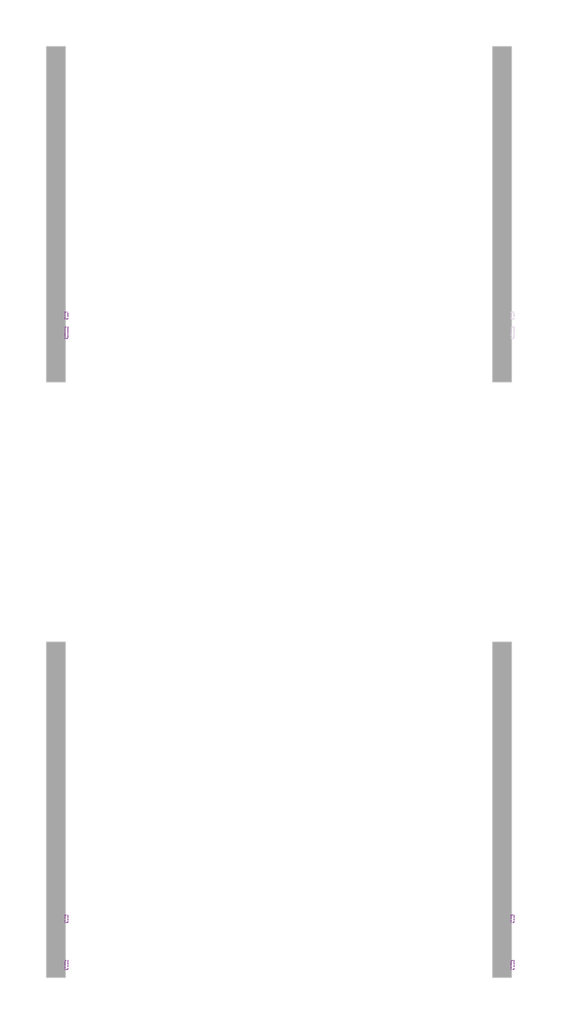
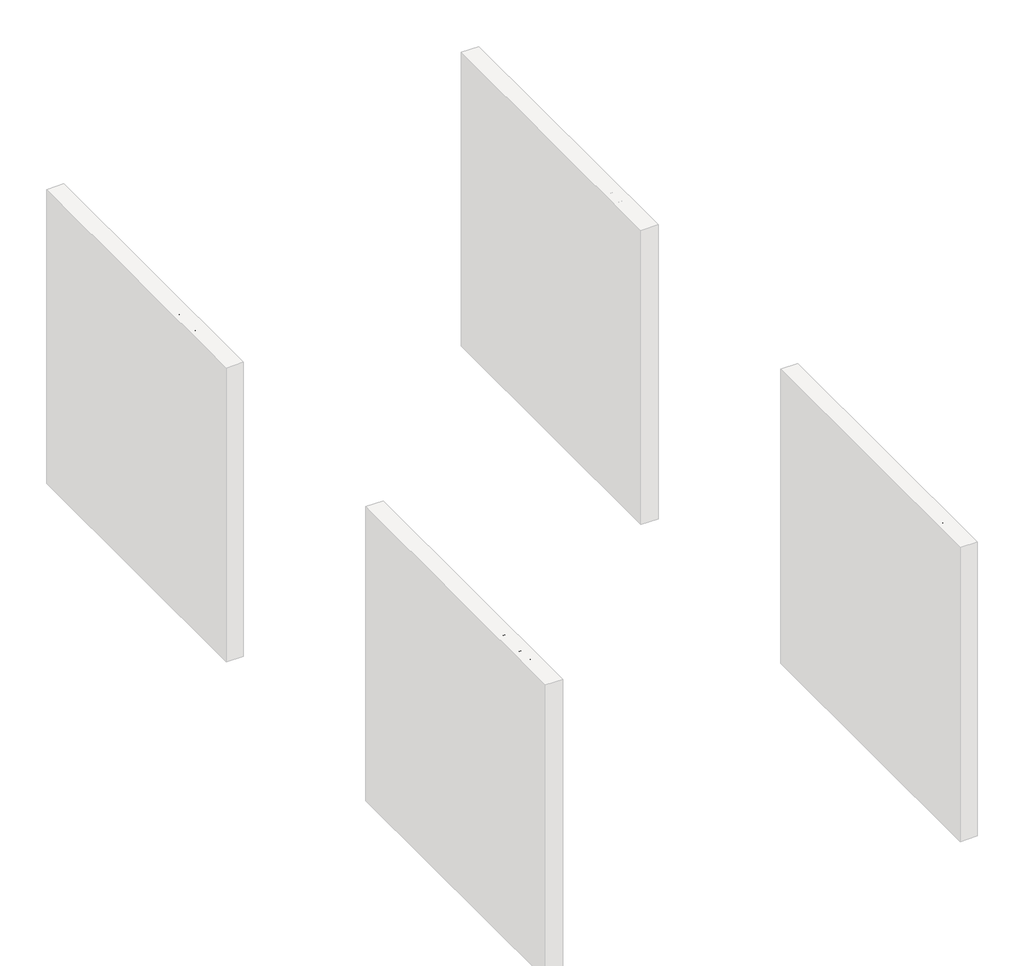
# One storey, part 6 of 9: 6 proxies.
"""IFC4 building model written with IfcOpenShell, lengths in millimetres."""

from ifc_helpers import new_model, si_unit, frame, origin, place, context, project, spatial, polyline, outline, extrude, element, save

model = new_model("IFC4")

# Units and contexts
model_context = context("Model", 3, world=origin())
ifc_project = project(units=[si_unit("LENGTHUNIT", "METRE", prefix="MILLI")], contexts=[model_context])

# Site, building, storey
site = spatial("IfcSite", under=ifc_project)
building = spatial("IfcBuilding", under=site)
storey = spatial("IfcBuildingStorey", under=building, Name="PORTOBELLO - SHOWROOM", Elevation=0.0)

# Proxies
placement = place(None, origin())
element("IfcBuildingElementProxy", 1, Name="10mm Arial", ObjectType="10mm Arial", at=placement, inside=storey, context=model_context, shape_type="SweptSolid", body=[
    extrude(outline(polyline([(3713.9937077, 2548.8308244), (3713.9937077, 2649.2871345), (3752.3270116, 2649.2871345), (3771.101256, 2646.3318158), (3782.1867668, 2637.2451306), (3786.1966806, 2624.3937862), (3782.824429, 2612.6583505), (3772.6340977, 2603.767869), (3785.0071955, 2594.3991409), (3789.3359403, 2578.7764188), (3786.3806216, 2565.2751496), (3779.0597699, 2555.6611668), (3768.1336746, 2550.5598698), (3752.032706, 2548.8308244), (3713.9937077, 2548.8308244)]), holes=[polyline([(3726.5507464, 2608.4767585), (3749.4820575, 2608.4767585), (3762.8729621, 2609.5558791), (3770.9295778, 2614.2034549), (3773.6396418, 2622.382698), (3771.1135188, 2630.5742037), (3763.8785062, 2635.4179833), (3747.7407494, 2636.7300958), (3726.5507464, 2636.7300958), (3726.5507464, 2608.4767585)]), polyline([(3726.5507464, 2561.3878632), (3752.3024861, 2561.3878632), (3761.6221633, 2561.8783725), (3769.5071007, 2564.612962), (3774.7310251, 2570.1925056), (3776.7789015, 2578.6537915), (3774.3754058, 2588.4149271), (3766.5885702, 2594.2397253), (3751.0762128, 2595.9197198), (3726.5507464, 2595.9197198), (3726.5507464, 2561.3878632)])]), frame((-18784.5594677, 0.0, 0.0), z_axis=(1.0, 0.0, 0.0), x_axis=(0.0, 1.0, 0.0)), (0.0, 0.0, 1.0), 20.0),
    extrude(outline(polyline([(-18764.5594677, 3817.5892775), (-18764.5594677, 3805.0322387), (-18784.5594677, 3805.0322387), (-18784.5594677, 3817.5892775), (-18764.5594677, 3817.5892775)])), frame((0.0, 0.0, 2548.8308244), z_axis=(0.0, 0.0, 1.0), x_axis=(1.0, 0.0, 0.0)), (0.0, 0.0, 1.0), 100.4563101),
    extrude(outline(polyline([(3883.513731, 2548.8308244), (3883.513731, 2561.5104905), (3873.679019, 2550.8235185), (3860.8522001, 2547.2611945), (3849.0431881, 2549.7627921), (3840.9007333, 2556.0413115), (3837.1605996, 2565.2874123), (3836.4248357, 2576.9615343), (3836.4248357, 2622.6034271), (3848.9818744, 2622.6034271), (3848.9818744, 2582.8721717), (3849.7421639, 2570.0698782), (3854.7085708, 2562.5528228), (3864.0650362, 2559.8182333), (3874.5496731, 2562.6141365), (3881.4781173, 2570.2292938), (3883.513731, 2584.2210723), (3883.513731, 2622.6034271), (3896.0707698, 2622.6034271), (3896.0707698, 2548.8308244), (3883.513731, 2548.8308244)])), frame((-18784.5594677, 0.0, 0.0), z_axis=(1.0, 0.0, 0.0), x_axis=(0.0, 1.0, 0.0)), (0.0, 0.0, 1.0), 20.0),
    extrude(outline(polyline([(3908.6278086, 2570.8056422), (3921.1848473, 2572.3752721), (3926.9973829, 2563.0555949), (3940.3147111, 2559.8182333), (3953.1170045, 2562.7858147), (3957.2863338, 2569.7510472), (3953.0924791, 2575.3919044), (3940.1675583, 2578.9726225), (3921.2584237, 2585.1162518), (3913.0056043, 2592.2899507), (3910.1974384, 2602.4189683), (3912.4537813, 2611.7754338), (3918.6096734, 2618.9246072), (3926.5927127, 2622.6402153), (3937.3961806, 2624.173057), (3952.6755461, 2621.7082476), (3962.3876308, 2615.0373208), (3966.7041129, 2603.767869), (3954.1470741, 2602.1982392), (3949.4259218, 2609.1266834), (3938.3771993, 2611.6160182), (3926.3597207, 2609.237048), (3922.7544772, 2603.6942926), (3924.2505306, 2600.0399981), (3928.9348947, 2597.2686204), (3939.7506254, 2594.5953446), (3958.1815133, 2588.6847072), (3966.7409011, 2581.9892549), (3969.8433726, 2571.0754224), (3966.2013408, 2559.0579438), (3955.6921785, 2550.3391406), (3940.1430328, 2547.2611945), (3927.4817608, 2548.7449853), (3918.2417914, 2553.1963574), (3912.0736366, 2560.56626), (3908.6278086, 2570.8056422)])), frame((-18784.5594677, 0.0, 0.0), z_axis=(1.0, 0.0, 0.0), x_axis=(0.0, 1.0, 0.0)), (0.0, 0.0, 1.0), 20.0),
    extrude(outline(polyline([(3983.9700412, 2548.8308244), (3983.9700412, 2649.2871345), (3996.52708, 2649.2871345), (3996.52708, 2612.3517822), (4006.3188724, 2621.2177383), (4018.3792705, 2624.173057), (4032.4814136, 2620.9479582), (4041.0408014, 2612.0329512), (4043.6159753, 2595.5273123), (4043.6159753, 2548.8308244), (4031.0589366, 2548.8308244), (4031.0589366, 2594.2274626), (4027.0612856, 2607.4712144), (4015.7305201, 2611.6160182), (4005.442087, 2608.8201151), (3998.5749564, 2601.241746), (3996.52708, 2588.0225196), (3996.52708, 2548.8308244), (3983.9700412, 2548.8308244)])), frame((-18784.5594677, 0.0, 0.0), z_axis=(1.0, 0.0, 0.0), x_axis=(0.0, 1.0, 0.0)), (0.0, 0.0, 1.0), 20.0),
])
element("IfcBuildingElementProxy", 2, Name="10mm Arial", ObjectType="10mm Arial", at=placement, inside=storey, context=model_context, shape_type="SweptSolid", body=[
    extrude(outline(polyline([(3713.9937077, 2548.8308244), (3713.9937077, 2649.2871345), (3752.3270116, 2649.2871345), (3771.101256, 2646.3318158), (3782.1867668, 2637.2451306), (3786.1966806, 2624.3937862), (3782.824429, 2612.6583505), (3772.6340977, 2603.767869), (3785.0071955, 2594.3991409), (3789.3359403, 2578.7764188), (3786.3806216, 2565.2751496), (3779.0597699, 2555.6611668), (3768.1336746, 2550.5598698), (3752.032706, 2548.8308244), (3713.9937077, 2548.8308244)]), holes=[polyline([(3726.5507464, 2608.4767585), (3749.4820575, 2608.4767585), (3762.8729621, 2609.5558791), (3770.9295778, 2614.2034549), (3773.6396418, 2622.382698), (3771.1135188, 2630.5742037), (3763.8785062, 2635.4179833), (3747.7407494, 2636.7300958), (3726.5507464, 2636.7300958), (3726.5507464, 2608.4767585)]), polyline([(3726.5507464, 2561.3878632), (3752.3024861, 2561.3878632), (3761.6221633, 2561.8783725), (3769.5071007, 2564.612962), (3774.7310251, 2570.1925056), (3776.7789015, 2578.6537915), (3774.3754058, 2588.4149271), (3766.5885702, 2594.2397253), (3751.0762128, 2595.9197198), (3726.5507464, 2595.9197198), (3726.5507464, 2561.3878632)])]), frame((-22384.5594677, 0.0, 0.0), z_axis=(1.0, 0.0, 0.0), x_axis=(0.0, 1.0, 0.0)), (0.0, 0.0, 1.0), 20.0),
    extrude(outline(polyline([(-22364.5594677, 3817.5892775), (-22364.5594677, 3805.0322387), (-22384.5594677, 3805.0322387), (-22384.5594677, 3817.5892775), (-22364.5594677, 3817.5892775)])), frame((0.0, 0.0, 2548.8308244), z_axis=(0.0, 0.0, 1.0), x_axis=(1.0, 0.0, 0.0)), (0.0, 0.0, 1.0), 100.4563101),
    extrude(outline(polyline([(3883.513731, 2548.8308244), (3883.513731, 2561.5104905), (3873.679019, 2550.8235185), (3860.8522001, 2547.2611945), (3849.0431881, 2549.7627921), (3840.9007333, 2556.0413115), (3837.1605996, 2565.2874123), (3836.4248357, 2576.9615343), (3836.4248357, 2622.6034271), (3848.9818744, 2622.6034271), (3848.9818744, 2582.8721717), (3849.7421639, 2570.0698782), (3854.7085708, 2562.5528228), (3864.0650362, 2559.8182333), (3874.5496731, 2562.6141365), (3881.4781173, 2570.2292938), (3883.513731, 2584.2210723), (3883.513731, 2622.6034271), (3896.0707698, 2622.6034271), (3896.0707698, 2548.8308244), (3883.513731, 2548.8308244)])), frame((-22384.5594677, 0.0, 0.0), z_axis=(1.0, 0.0, 0.0), x_axis=(0.0, 1.0, 0.0)), (0.0, 0.0, 1.0), 20.0),
    extrude(outline(polyline([(3908.6278086, 2570.8056422), (3921.1848473, 2572.3752721), (3926.9973829, 2563.0555949), (3940.3147111, 2559.8182333), (3953.1170045, 2562.7858147), (3957.2863338, 2569.7510472), (3953.0924791, 2575.3919044), (3940.1675583, 2578.9726225), (3921.2584237, 2585.1162518), (3913.0056043, 2592.2899507), (3910.1974384, 2602.4189683), (3912.4537813, 2611.7754338), (3918.6096734, 2618.9246072), (3926.5927127, 2622.6402153), (3937.3961806, 2624.173057), (3952.6755461, 2621.7082476), (3962.3876308, 2615.0373208), (3966.7041129, 2603.767869), (3954.1470741, 2602.1982392), (3949.4259218, 2609.1266834), (3938.3771993, 2611.6160182), (3926.3597207, 2609.237048), (3922.7544772, 2603.6942926), (3924.2505306, 2600.0399981), (3928.9348947, 2597.2686204), (3939.7506254, 2594.5953446), (3958.1815133, 2588.6847072), (3966.7409011, 2581.9892549), (3969.8433726, 2571.0754224), (3966.2013408, 2559.0579438), (3955.6921785, 2550.3391406), (3940.1430328, 2547.2611945), (3927.4817608, 2548.7449853), (3918.2417914, 2553.1963574), (3912.0736366, 2560.56626), (3908.6278086, 2570.8056422)])), frame((-22384.5594677, 0.0, 0.0), z_axis=(1.0, 0.0, 0.0), x_axis=(0.0, 1.0, 0.0)), (0.0, 0.0, 1.0), 20.0),
    extrude(outline(polyline([(3983.9700412, 2548.8308244), (3983.9700412, 2649.2871345), (3996.52708, 2649.2871345), (3996.52708, 2612.3517822), (4006.3188724, 2621.2177383), (4018.3792705, 2624.173057), (4032.4814136, 2620.9479582), (4041.0408014, 2612.0329512), (4043.6159753, 2595.5273123), (4043.6159753, 2548.8308244), (4031.0589366, 2548.8308244), (4031.0589366, 2594.2274626), (4027.0612856, 2607.4712144), (4015.7305201, 2611.6160182), (4005.442087, 2608.8201151), (3998.5749564, 2601.241746), (3996.52708, 2588.0225196), (3996.52708, 2548.8308244), (3983.9700412, 2548.8308244)])), frame((-22384.5594677, 0.0, 0.0), z_axis=(1.0, 0.0, 0.0), x_axis=(0.0, 1.0, 0.0)), (0.0, 0.0, 1.0), 20.0),
])
element("IfcBuildingElementProxy", 3, Name="10mm Arial", ObjectType="10mm Arial", at=placement, inside=storey, context=model_context, shape_type="SweptSolid", body=[
    extrude(outline(polyline([(8513.9937077, 2548.8308244), (8513.9937077, 2649.2871345), (8548.6481916, 2649.2871345), (8566.5763075, 2647.840132), (8581.3406382, 2640.6541704), (8593.2354894, 2623.4863439), (8597.1840895, 2599.5985397), (8594.5108137, 2579.3282418), (8587.6436831, 2564.6988011), (8578.4711587, 2555.5875904), (8566.4659429, 2550.547607), (8550.3159233, 2548.8308244), (8513.9937077, 2548.8308244)]), holes=[polyline([(8526.5507464, 2561.3878632), (8548.7708189, 2561.3878632), (8564.9331013, 2563.2027477), (8574.2527785, 2568.3285701), (8581.8924612, 2580.7997698), (8584.6270507, 2599.7947434), (8583.2873471, 2613.4799537), (8579.2682363, 2623.5844458), (8566.232951, 2634.7190075), (8548.4274624, 2636.7300958), (8526.5507464, 2636.7300958), (8526.5507464, 2561.3878632)])]), frame((-22384.5594677, 0.0, 0.0), z_axis=(1.0, 0.0, 0.0), x_axis=(0.0, 1.0, 0.0)), (0.0, 0.0, 1.0), 20.0),
    extrude(outline(polyline([(8664.5310201, 2570.8056422), (8676.8428042, 2569.2360124), (8672.4067605, 2559.9592547), (8665.3280977, 2553.0246791), (8655.7662316, 2548.7020657), (8643.8805774, 2547.2611945), (8629.1469035, 2549.7474637), (8617.8100067, 2557.2062711), (8610.5811255, 2569.1532389), (8608.1714984, 2585.1039891), (8610.605651, 2601.5912339), (8617.9081086, 2613.9214121), (8629.0917212, 2621.6101458), (8643.1693389, 2624.173057), (8656.8085639, 2621.6162771), (8667.707068, 2613.9459375), (8674.8531757, 2601.6402848), (8677.2352117, 2585.1775655), (8677.1616353, 2581.7930512), (8620.7285372, 2581.7930512), (8622.9021066, 2572.3936662), (8627.951287, 2565.483616), (8635.2384162, 2561.234579), (8644.1258321, 2559.8182333), (8656.4376162, 2562.4424582), (8664.5310201, 2570.8056422)]), holes=[polyline([(8620.7285372, 2594.3500899), (8664.6781729, 2594.3500899), (8659.6504523, 2605.7299063), (8652.3296006, 2610.1444902), (8643.120288, 2611.6160182), (8627.6569814, 2606.9193914), (8622.791742, 2601.4287526), (8620.7285372, 2594.3500899)])]), frame((-22384.5594677, 0.0, 0.0), z_axis=(1.0, 0.0, 0.0), x_axis=(0.0, 1.0, 0.0)), (0.0, 0.0, 1.0), 20.0),
    extrude(outline(polyline([(8689.7922504, 2548.8308244), (8689.7922504, 2622.6034271), (8702.3492892, 2622.6034271), (8702.3492892, 2612.3027313), (8711.9510093, 2621.2054756), (8725.059871, 2624.173057), (8736.917934, 2621.781824), (8745.0113379, 2615.5033046), (8748.775997, 2606.2694666), (8749.4381846, 2594.1293607), (8749.4381846, 2548.8308244), (8736.8811458, 2548.8308244), (8736.8811458, 2592.4371035), (8735.4341433, 2603.5471398), (8730.3205836, 2609.420989), (8721.6998821, 2611.6160182), (8708.0759856, 2606.6863995), (8703.7809633, 2599.5433574), (8702.3492892, 2587.9734687), (8702.3492892, 2548.8308244), (8689.7922504, 2548.8308244)])), frame((-22384.5594677, 0.0, 0.0), z_axis=(1.0, 0.0, 0.0), x_axis=(0.0, 1.0, 0.0)), (0.0, 0.0, 1.0), 20.0),
    extrude(outline(polyline([(-22364.5594677, 8779.2611516), (-22364.5594677, 8766.7041129), (-22384.5594677, 8766.7041129), (-22384.5594677, 8779.2611516), (-22364.5594677, 8779.2611516)])), frame((0.0, 0.0, 2636.7300958), z_axis=(0.0, 0.0, 1.0), x_axis=(1.0, 0.0, 0.0)), (0.0, 0.0, 1.0), 12.5570388),
    extrude(outline(polyline([(-22364.5594677, 8779.2611516), (-22364.5594677, 8766.7041129), (-22384.5594677, 8766.7041129), (-22384.5594677, 8779.2611516), (-22364.5594677, 8779.2611516)])), frame((0.0, 0.0, 2548.8308244), z_axis=(0.0, 0.0, 1.0), x_axis=(1.0, 0.0, 0.0)), (0.0, 0.0, 1.0), 73.7726028),
    extrude(outline(polyline([(8798.0967098, 2548.8308244), (8798.0967098, 2622.6034271), (8810.6537486, 2622.6034271), (8810.6537486, 2610.4633213), (8819.2867127, 2620.4083979), (8831.5739714, 2624.173057), (8844.1555356, 2620.3348215), (8851.0717171, 2609.5804045), (8860.8696409, 2620.5248939), (8873.2427387, 2624.173057), (8882.6819775, 2622.6555438), (8889.6625384, 2618.1030041), (8893.9759548, 2610.3928106), (8895.4137603, 2599.402336), (8895.4137603, 2548.8308244), (8882.8567215, 2548.8308244), (8882.8567215, 2594.0067334), (8881.6917618, 2604.4913703), (8877.4733816, 2609.6539809), (8870.2996827, 2611.6160182), (8857.9511104, 2606.5882976), (8854.2630934, 2600.0461295), (8853.0337544, 2590.4750662), (8853.0337544, 2548.8308244), (8840.4767156, 2548.8308244), (8840.4767156, 2595.404685), (8837.5704479, 2607.5693163), (8828.0423042, 2611.6160182), (8818.7471525, 2608.9182169), (8812.5667349, 2601.0210168), (8810.6537486, 2586.0359568), (8810.6537486, 2548.8308244), (8798.0967098, 2548.8308244)])), frame((-22384.5594677, 0.0, 0.0), z_axis=(1.0, 0.0, 0.0), x_axis=(0.0, 1.0, 0.0)), (0.0, 0.0, 1.0), 20.0),
])
element("IfcBuildingElementProxy", 4, Name="10mm Arial Narrow", ObjectType="10mm Arial Narrow", at=placement, inside=storey, context=model_context, shape_type="SweptSolid", body=[
    extrude(outline(polyline([(4093.5169571, 2548.8308244), (4093.5169571, 2649.5494281), (4124.8138418, 2649.5494281), (4141.1095433, 2647.6711074), (4152.5825295, 2638.1906642), (4156.8722079, 2621.1715554), (4155.0858995, 2609.0957299), (4149.7269743, 2599.4693361), (4139.9831855, 2593.1680777), (4125.0422862, 2591.0676582), (4103.2639188, 2591.0676582), (4103.2639188, 2548.8308244), (4093.5169571, 2548.8308244)]), holes=[polyline([(4103.2639188, 2602.4391135), (4126.2352737, 2602.4391135), (4142.0994691, 2606.9699277), (4147.1252462, 2620.6385184), (4144.6504318, 2630.8042949), (4138.6728029, 2636.6042447), (4126.0068293, 2638.1779729), (4103.2639188, 2638.1779729), (4103.2639188, 2602.4391135)])]), frame((-18784.5594677, 0.0, 0.0), z_axis=(1.0, 0.0, 0.0), x_axis=(0.0, 1.0, 0.0)), (0.0, 0.0, 1.0), 20.0),
    extrude(outline(polyline([(4164.9946759, 2585.3819306), (4166.9491448, 2601.9727061), (4172.8125514, 2613.9247909), (4181.6711181, 2621.1493455), (4192.6110673, 2623.5575304), (4203.4241029, 2621.1493455), (4212.3080523, 2613.9247909), (4218.247607, 2602.1630765), (4220.2274586, 2586.143412), (4218.2825083, 2568.9815254), (4212.4476572, 2556.8390702), (4203.598609, 2549.6145156), (4192.6110673, 2547.2063308), (4181.7504391, 2549.6208613), (4172.8760082, 2556.8644529), (4166.965009, 2568.8228834), (4164.9946759, 2585.3819306)]), holes=[polyline([(4174.7416376, 2585.4073133), (4176.0456744, 2572.8555619), (4179.957785, 2563.9843038), (4185.7989818, 2558.7110453), (4192.8902771, 2556.9532924), (4199.6103503, 2558.7269095), (4205.3024236, 2564.0477606), (4209.1859786, 2572.9348829), (4210.480497, 2585.4073133), (4209.1764601, 2597.9209906), (4205.2643495, 2606.7795573), (4199.4231528, 2612.0528159), (4192.3318574, 2613.8105687), (4185.5641917, 2612.0432974), (4179.8816369, 2606.7414833), (4176.0266374, 2597.873398), (4174.7416376, 2585.4073133)])]), frame((-18784.5594677, 0.0, 0.0), z_axis=(1.0, 0.0, 0.0), x_axis=(0.0, 1.0, 0.0)), (0.0, 0.0, 1.0), 20.0),
    extrude(outline(polyline([(4291.7051774, 2556.9532924), (4293.329671, 2547.2063308), (4285.9686844, 2547.2063308), (4277.6939201, 2549.3257873), (4273.3788589, 2555.1257371), (4272.2112541, 2569.7715623), (4272.2112541, 2612.1860751), (4264.0887861, 2612.1860751), (4264.0887861, 2615.4350623), (4262.4642925, 2610.5615815), (4254.9002441, 2612.1860751), (4248.8210844, 2609.8635569), (4244.9502207, 2603.3782738), (4242.9703692, 2587.9709673), (4242.9703692, 2548.8308244), (4233.2234075, 2548.8308244), (4233.2234075, 2621.9330368), (4242.9703692, 2621.9330368), (4242.9703692, 2612.2368406), (4249.2145165, 2621.3238517), (4255.6109601, 2623.5575304), (4264.0887861, 2621.9330368), (4272.2112541, 2621.9330368), (4272.2112541, 2638.1779729), (4281.9582158, 2646.3004409), (4281.9582158, 2621.9330368), (4291.7051774, 2621.9330368), (4291.7051774, 2612.1860751), (4281.9582158, 2612.1860751), (4281.9582158, 2567.5378836), (4282.821228, 2559.5423291), (4287.4408817, 2556.9532924), (4291.7051774, 2556.9532924)])), frame((-18784.5594677, 0.0, 0.0), z_axis=(1.0, 0.0, 0.0), x_axis=(0.0, 1.0, 0.0)), (0.0, 0.0, 1.0), 20.0),
    extrude(outline(polyline([(4298.2031519, 2585.3819306), (4300.1576207, 2601.9727061), (4306.0210274, 2613.9247909), (4314.8795941, 2621.1493455), (4325.8195432, 2623.5575304), (4336.6325788, 2621.1493455), (4345.5165282, 2613.9247909), (4351.456083, 2602.1630765), (4353.4359346, 2586.143412), (4351.4909842, 2568.9815254), (4345.6561331, 2556.8390702), (4336.8070849, 2549.6145156), (4325.8195432, 2547.2063308), (4314.958915, 2549.6208613), (4306.0844841, 2556.8644529), (4300.1734849, 2568.8228834), (4298.2031519, 2585.3819306)]), holes=[polyline([(4307.9501135, 2585.4073133), (4309.2541504, 2572.8555619), (4313.166261, 2563.9843038), (4319.0074577, 2558.7110453), (4326.0987531, 2556.9532924), (4332.8188262, 2558.7269095), (4338.5108995, 2564.0477606), (4342.3944546, 2572.9348829), (4343.6889729, 2585.4073133), (4342.3849361, 2597.9209906), (4338.4728255, 2606.7795573), (4332.6316287, 2612.0528159), (4325.5403334, 2613.8105687), (4318.7726676, 2612.0432974), (4313.0901128, 2606.7414833), (4309.2351133, 2597.873398), (4307.9501135, 2585.4073133)])]), frame((-18784.5594677, 0.0, 0.0), z_axis=(1.0, 0.0, 0.0), x_axis=(0.0, 1.0, 0.0)), (0.0, 0.0, 1.0), 20.0),
    extrude(outline(polyline([(4376.1788451, 2548.8308244), (4366.4318834, 2548.8308244), (4366.4318834, 2649.5494281), (4376.1788451, 2649.5494281), (4376.1788451, 2614.140544), (4383.5779058, 2621.2223208), (4392.7791392, 2623.5575304), (4405.6608658, 2619.3566915), (4414.9382473, 2606.6272611), (4418.4156789, 2585.9403503), (4416.4834199, 2569.4860068), (4410.6866429, 2557.2832677), (4402.3135206, 2549.725565), (4392.6522256, 2547.2063308), (4383.3113873, 2549.8207502), (4376.1788451, 2557.5878602), (4376.1788451, 2548.8308244)]), holes=[polyline([(4376.1788451, 2585.9403503), (4378.2602275, 2568.692797), (4384.1490169, 2559.9611439), (4392.6014602, 2556.9532924), (4398.5441878, 2558.7427737), (4403.7825451, 2564.1112174), (4408.6687173, 2585.5342269), (4403.9602241, 2606.9699277), (4398.7155211, 2612.1004085), (4392.3983985, 2613.8105687), (4386.4207696, 2612.0210875), (4381.1284741, 2606.6526438), (4376.1788451, 2585.9403503)])]), frame((-18784.5594677, 0.0, 0.0), z_axis=(1.0, 0.0, 0.0), x_axis=(0.0, 1.0, 0.0)), (0.0, 0.0, 1.0), 20.0),
    extrude(outline(polyline([(4470.3994744, 2571.5737349), (4480.1464361, 2569.9492413), (4476.4469057, 2560.0626747), (4470.6279188, 2552.9428238), (4462.9242655, 2548.640454), (4453.5707359, 2547.2063308), (4441.9771819, 2549.6208613), (4432.8330597, 2556.8644529), (4426.8935049, 2568.6705872), (4424.9136534, 2584.7727455), (4426.9030235, 2601.4396692), (4432.8711338, 2613.6201984), (4441.8851696, 2621.0731974), (4453.0123163, 2623.5575304), (4463.6952654, 2621.158864), (4472.4427828, 2613.962865), (4478.2776338, 2602.2233604), (4480.2225842, 2586.1941774), (4480.1464361, 2582.9451902), (4434.660615, 2582.9451902), (4440.6636266, 2563.5020323), (4446.5936628, 2558.5904774), (4453.6976495, 2556.9532924), (4463.8761173, 2560.608403), (4470.3994744, 2571.5737349)]), holes=[polyline([(4435.3205655, 2592.6921518), (4470.3994744, 2592.6921518), (4466.1351787, 2606.9572363), (4460.3098461, 2612.0972356), (4453.0884644, 2613.8105687), (4440.8793796, 2608.0994584), (4435.3205655, 2592.6921518)])]), frame((-18784.5594677, 0.0, 0.0), z_axis=(1.0, 0.0, 0.0), x_axis=(0.0, 1.0, 0.0)), (0.0, 0.0, 1.0), 20.0),
    extrude(outline(polyline([(-18764.5594677, 4502.8893466), (-18764.5594677, 4493.1423849), (-18784.5594677, 4493.1423849), (-18784.5594677, 4502.8893466), (-18764.5594677, 4502.8893466)])), frame((0.0, 0.0, 2548.8308244), z_axis=(0.0, 0.0, 1.0), x_axis=(1.0, 0.0, 0.0)), (0.0, 0.0, 1.0), 100.7186038),
    extrude(outline(polyline([(-18764.5594677, 4528.8812443), (-18764.5594677, 4519.1342827), (-18784.5594677, 4519.1342827), (-18784.5594677, 4528.8812443), (-18764.5594677, 4528.8812443)])), frame((0.0, 0.0, 2548.8308244), z_axis=(0.0, 0.0, 1.0), x_axis=(1.0, 0.0, 0.0)), (0.0, 0.0, 1.0), 100.7186038),
    extrude(outline(polyline([(4540.2526996, 2585.3819306), (4542.2071685, 2601.9727061), (4548.0705751, 2613.9247909), (4556.9291418, 2621.1493455), (4567.8690909, 2623.5575304), (4578.6821265, 2621.1493455), (4587.566076, 2613.9247909), (4593.5056307, 2602.1630765), (4595.4854823, 2586.143412), (4593.5405319, 2568.9815254), (4587.7056809, 2556.8390702), (4578.8566327, 2549.6145156), (4567.8690909, 2547.2063308), (4557.0084628, 2549.6208613), (4548.1340319, 2556.8644529), (4542.2230327, 2568.8228834), (4540.2526996, 2585.3819306)]), holes=[polyline([(4549.9996612, 2585.4073133), (4551.3036981, 2572.8555619), (4555.2158087, 2563.9843038), (4561.0570054, 2558.7110453), (4568.1483008, 2556.9532924), (4574.868374, 2558.7269095), (4580.5604473, 2564.0477606), (4584.4440023, 2572.9348829), (4585.7385206, 2585.4073133), (4584.4344838, 2597.9209906), (4580.5223732, 2606.7795573), (4574.6811764, 2612.0528159), (4567.5898811, 2613.8105687), (4560.8222153, 2612.0432974), (4555.1396606, 2606.7414833), (4551.2846611, 2597.873398), (4549.9996612, 2585.4073133)])]), frame((-18784.5594677, 0.0, 0.0), z_axis=(1.0, 0.0, 0.0), x_axis=(0.0, 1.0, 0.0)), (0.0, 0.0, 1.0), 20.0),
])
element("IfcBuildingElementProxy", 5, Name="10mm Arial Narrow", ObjectType="10mm Arial Narrow", at=placement, inside=storey, context=model_context, shape_type="SweptSolid", body=[
    extrude(outline(polyline([(4093.5169571, 2548.8308244), (4093.5169571, 2649.5494281), (4124.8138418, 2649.5494281), (4141.1095433, 2647.6711074), (4152.5825294, 2638.1906642), (4156.8722079, 2621.1715554), (4155.0858995, 2609.0957299), (4149.7269743, 2599.4693361), (4139.9831855, 2593.1680777), (4125.0422862, 2591.0676582), (4103.2639188, 2591.0676582), (4103.2639188, 2548.8308244), (4093.5169571, 2548.8308244)]), holes=[polyline([(4103.2639188, 2602.4391135), (4126.2352737, 2602.4391135), (4142.0994691, 2606.9699277), (4147.1252462, 2620.6385184), (4144.6504318, 2630.8042949), (4138.6728029, 2636.6042447), (4126.0068293, 2638.1779729), (4103.2639188, 2638.1779729), (4103.2639188, 2602.4391135)])]), frame((-22384.5594677, 0.0, 0.0), z_axis=(1.0, 0.0, 0.0), x_axis=(0.0, 1.0, 0.0)), (0.0, 0.0, 1.0), 20.0),
    extrude(outline(polyline([(4164.9946759, 2585.3819306), (4166.9491448, 2601.9727061), (4172.8125514, 2613.9247909), (4181.6711181, 2621.1493455), (4192.6110673, 2623.5575304), (4203.4241029, 2621.1493455), (4212.3080523, 2613.9247909), (4218.247607, 2602.1630765), (4220.2274586, 2586.143412), (4218.2825083, 2568.9815254), (4212.4476572, 2556.8390702), (4203.598609, 2549.6145156), (4192.6110673, 2547.2063308), (4181.7504391, 2549.6208613), (4172.8760082, 2556.8644529), (4166.965009, 2568.8228834), (4164.9946759, 2585.3819306)]), holes=[polyline([(4174.7416376, 2585.4073133), (4176.0456744, 2572.8555619), (4179.957785, 2563.9843038), (4185.7989818, 2558.7110453), (4192.8902771, 2556.9532924), (4199.6103503, 2558.7269095), (4205.3024236, 2564.0477606), (4209.1859786, 2572.9348829), (4210.480497, 2585.4073133), (4209.1764601, 2597.9209906), (4205.2643495, 2606.7795573), (4199.4231528, 2612.0528159), (4192.3318574, 2613.8105687), (4185.5641917, 2612.0432974), (4179.8816369, 2606.7414833), (4176.0266374, 2597.873398), (4174.7416376, 2585.4073133)])]), frame((-22384.5594677, 0.0, 0.0), z_axis=(1.0, 0.0, 0.0), x_axis=(0.0, 1.0, 0.0)), (0.0, 0.0, 1.0), 20.0),
    extrude(outline(polyline([(4291.7051774, 2556.9532924), (4293.329671, 2547.2063308), (4285.9686844, 2547.2063308), (4277.69392, 2549.3257873), (4273.3788589, 2555.1257371), (4272.2112541, 2569.7715623), (4272.2112541, 2612.1860751), (4264.0887861, 2612.1860751), (4264.0887861, 2615.4350623), (4262.4642925, 2610.5615815), (4254.9002441, 2612.1860751), (4248.8210844, 2609.8635569), (4244.9502207, 2603.3782738), (4242.9703692, 2587.9709673), (4242.9703692, 2548.8308244), (4233.2234075, 2548.8308244), (4233.2234075, 2621.9330368), (4242.9703692, 2621.9330368), (4242.9703692, 2612.2368406), (4249.2145165, 2621.3238517), (4255.6109601, 2623.5575304), (4264.0887861, 2621.9330368), (4272.2112541, 2621.9330368), (4272.2112541, 2638.1779729), (4281.9582158, 2646.3004409), (4281.9582158, 2621.9330368), (4291.7051774, 2621.9330368), (4291.7051774, 2612.1860751), (4281.9582158, 2612.1860751), (4281.9582158, 2567.5378836), (4282.821228, 2559.5423291), (4287.4408817, 2556.9532924), (4291.7051774, 2556.9532924)])), frame((-22384.5594677, 0.0, 0.0), z_axis=(1.0, 0.0, 0.0), x_axis=(0.0, 1.0, 0.0)), (0.0, 0.0, 1.0), 20.0),
    extrude(outline(polyline([(4298.2031519, 2585.3819306), (4300.1576207, 2601.9727061), (4306.0210274, 2613.9247909), (4314.8795941, 2621.1493455), (4325.8195432, 2623.5575304), (4336.6325788, 2621.1493455), (4345.5165282, 2613.9247909), (4351.456083, 2602.1630765), (4353.4359346, 2586.143412), (4351.4909842, 2568.9815254), (4345.6561331, 2556.8390702), (4336.8070849, 2549.6145156), (4325.8195432, 2547.2063308), (4314.958915, 2549.6208613), (4306.0844841, 2556.8644529), (4300.1734849, 2568.8228834), (4298.2031519, 2585.3819306)]), holes=[polyline([(4307.9501135, 2585.4073133), (4309.2541504, 2572.8555619), (4313.166261, 2563.9843038), (4319.0074577, 2558.7110453), (4326.0987531, 2556.9532924), (4332.8188262, 2558.7269095), (4338.5108995, 2564.0477606), (4342.3944546, 2572.9348829), (4343.6889729, 2585.4073133), (4342.384936, 2597.9209906), (4338.4728255, 2606.7795573), (4332.6316287, 2612.0528159), (4325.5403334, 2613.8105687), (4318.7726676, 2612.0432974), (4313.0901128, 2606.7414833), (4309.2351133, 2597.873398), (4307.9501135, 2585.4073133)])]), frame((-22384.5594677, 0.0, 0.0), z_axis=(1.0, 0.0, 0.0), x_axis=(0.0, 1.0, 0.0)), (0.0, 0.0, 1.0), 20.0),
    extrude(outline(polyline([(4376.1788451, 2548.8308244), (4366.4318834, 2548.8308244), (4366.4318834, 2649.5494281), (4376.1788451, 2649.5494281), (4376.1788451, 2614.140544), (4383.5779058, 2621.2223208), (4392.7791392, 2623.5575304), (4405.6608658, 2619.3566915), (4414.9382473, 2606.6272611), (4418.4156789, 2585.9403503), (4416.4834199, 2569.4860068), (4410.6866429, 2557.2832677), (4402.3135206, 2549.725565), (4392.6522256, 2547.2063308), (4383.3113873, 2549.8207502), (4376.1788451, 2557.5878602), (4376.1788451, 2548.8308244)]), holes=[polyline([(4376.1788451, 2585.9403503), (4378.2602275, 2568.692797), (4384.1490169, 2559.9611439), (4392.6014602, 2556.9532924), (4398.5441878, 2558.7427737), (4403.7825451, 2564.1112174), (4408.6687173, 2585.5342269), (4403.9602241, 2606.9699277), (4398.7155211, 2612.1004085), (4392.3983985, 2613.8105687), (4386.4207696, 2612.0210875), (4381.1284741, 2606.6526438), (4376.1788451, 2585.9403503)])]), frame((-22384.5594677, 0.0, 0.0), z_axis=(1.0, 0.0, 0.0), x_axis=(0.0, 1.0, 0.0)), (0.0, 0.0, 1.0), 20.0),
    extrude(outline(polyline([(4470.3994744, 2571.5737349), (4480.1464361, 2569.9492413), (4476.4469057, 2560.0626747), (4470.6279188, 2552.9428238), (4462.9242655, 2548.640454), (4453.5707359, 2547.2063308), (4441.9771819, 2549.6208613), (4432.8330597, 2556.8644529), (4426.8935049, 2568.6705872), (4424.9136534, 2584.7727455), (4426.9030235, 2601.4396692), (4432.8711338, 2613.6201984), (4441.8851696, 2621.0731974), (4453.0123162, 2623.5575304), (4463.6952654, 2621.158864), (4472.4427828, 2613.962865), (4478.2776338, 2602.2233604), (4480.2225842, 2586.1941774), (4480.1464361, 2582.9451902), (4434.660615, 2582.9451902), (4440.6636266, 2563.5020323), (4446.5936628, 2558.5904774), (4453.6976495, 2556.9532924), (4463.8761173, 2560.608403), (4470.3994744, 2571.5737349)]), holes=[polyline([(4435.3205655, 2592.6921518), (4470.3994744, 2592.6921518), (4466.1351787, 2606.9572363), (4460.3098461, 2612.0972356), (4453.0884644, 2613.8105687), (4440.8793796, 2608.0994584), (4435.3205655, 2592.6921518)])]), frame((-22384.5594677, 0.0, 0.0), z_axis=(1.0, 0.0, 0.0), x_axis=(0.0, 1.0, 0.0)), (0.0, 0.0, 1.0), 20.0),
    extrude(outline(polyline([(-22364.5594677, 4502.8893466), (-22364.5594677, 4493.1423849), (-22384.5594677, 4493.1423849), (-22384.5594677, 4502.8893466), (-22364.5594677, 4502.8893466)])), frame((0.0, 0.0, 2548.8308244), z_axis=(0.0, 0.0, 1.0), x_axis=(1.0, 0.0, 0.0)), (0.0, 0.0, 1.0), 100.7186038),
    extrude(outline(polyline([(-22364.5594677, 4528.8812443), (-22364.5594677, 4519.1342827), (-22384.5594677, 4519.1342827), (-22384.5594677, 4528.8812443), (-22364.5594677, 4528.8812443)])), frame((0.0, 0.0, 2548.8308244), z_axis=(0.0, 0.0, 1.0), x_axis=(1.0, 0.0, 0.0)), (0.0, 0.0, 1.0), 100.7186038),
    extrude(outline(polyline([(4540.2526996, 2585.3819306), (4542.2071685, 2601.9727061), (4548.0705751, 2613.9247909), (4556.9291418, 2621.1493455), (4567.8690909, 2623.5575304), (4578.6821265, 2621.1493455), (4587.566076, 2613.9247909), (4593.5056307, 2602.1630765), (4595.4854823, 2586.143412), (4593.5405319, 2568.9815254), (4587.7056809, 2556.8390702), (4578.8566327, 2549.6145156), (4567.8690909, 2547.2063308), (4557.0084628, 2549.6208613), (4548.1340319, 2556.8644529), (4542.2230327, 2568.8228834), (4540.2526996, 2585.3819306)]), holes=[polyline([(4549.9996612, 2585.4073133), (4551.3036981, 2572.8555619), (4555.2158087, 2563.9843038), (4561.0570054, 2558.7110453), (4568.1483008, 2556.9532924), (4574.868374, 2558.7269095), (4580.5604473, 2564.0477606), (4584.4440023, 2572.9348829), (4585.7385206, 2585.4073133), (4584.4344838, 2597.9209906), (4580.5223732, 2606.7795573), (4574.6811764, 2612.0528159), (4567.5898811, 2613.8105687), (4560.8222153, 2612.0432974), (4555.1396606, 2606.7414833), (4551.2846611, 2597.873398), (4549.9996612, 2585.4073133)])]), frame((-22384.5594677, 0.0, 0.0), z_axis=(1.0, 0.0, 0.0), x_axis=(0.0, 1.0, 0.0)), (0.0, 0.0, 1.0), 20.0),
])
element("IfcBuildingElementProxy", 6, Name="10mm Arial Narrow", ObjectType="10mm Arial Narrow", at=placement, inside=storey, context=model_context, shape_type="SweptSolid", body=[
    extrude(outline(polyline([(8953.5169571, 2548.8308244), (8953.5169571, 2649.5494281), (8984.8138418, 2649.5494281), (9001.1095433, 2647.6711074), (9012.5825295, 2638.1906642), (9016.8722079, 2621.1715554), (9015.0858995, 2609.0957299), (9009.7269743, 2599.4693361), (8999.9831855, 2593.1680777), (8985.0422862, 2591.0676582), (8963.2639188, 2591.0676582), (8963.2639188, 2548.8308244), (8953.5169571, 2548.8308244)]), holes=[polyline([(8963.2639188, 2602.4391135), (8986.2352737, 2602.4391135), (9002.0994691, 2606.9699277), (9007.1252462, 2620.6385184), (9004.6504318, 2630.8042949), (8998.6728029, 2636.6042447), (8986.0068293, 2638.1779729), (8963.2639188, 2638.1779729), (8963.2639188, 2602.4391135)])]), frame((-22384.5594677, 0.0, 0.0), z_axis=(1.0, 0.0, 0.0), x_axis=(0.0, 1.0, 0.0)), (0.0, 0.0, 1.0), 20.0),
    extrude(outline(polyline([(9024.9946759, 2585.3819306), (9026.9491448, 2601.9727061), (9032.8125514, 2613.9247909), (9041.6711181, 2621.1493455), (9052.6110673, 2623.5575304), (9063.4241029, 2621.1493455), (9072.3080523, 2613.9247909), (9078.247607, 2602.1630765), (9080.2274586, 2586.143412), (9078.2825083, 2568.9815254), (9072.4476572, 2556.8390702), (9063.598609, 2549.6145156), (9052.6110673, 2547.2063308), (9041.7504391, 2549.6208613), (9032.8760082, 2556.8644529), (9026.965009, 2568.8228834), (9024.9946759, 2585.3819306)]), holes=[polyline([(9034.7416376, 2585.4073133), (9036.0456744, 2572.8555619), (9039.957785, 2563.9843038), (9045.7989818, 2558.7110453), (9052.8902771, 2556.9532924), (9059.6103503, 2558.7269095), (9065.3024236, 2564.0477606), (9069.1859786, 2572.9348829), (9070.480497, 2585.4073133), (9069.1764601, 2597.9209906), (9065.2643495, 2606.7795573), (9059.4231528, 2612.0528159), (9052.3318574, 2613.8105687), (9045.5641917, 2612.0432974), (9039.8816369, 2606.7414833), (9036.0266374, 2597.873398), (9034.7416376, 2585.4073133)])]), frame((-22384.5594677, 0.0, 0.0), z_axis=(1.0, 0.0, 0.0), x_axis=(0.0, 1.0, 0.0)), (0.0, 0.0, 1.0), 20.0),
    extrude(outline(polyline([(9151.7051774, 2556.9532924), (9153.329671, 2547.2063308), (9145.9686844, 2547.2063308), (9137.6939201, 2549.3257873), (9133.3788589, 2555.1257371), (9132.2112541, 2569.7715623), (9132.2112541, 2612.1860751), (9124.0887861, 2612.1860751), (9124.0887861, 2615.4350623), (9122.4642925, 2610.5615815), (9114.9002441, 2612.1860751), (9108.8210844, 2609.8635569), (9104.9502207, 2603.3782738), (9102.9703692, 2587.9709673), (9102.9703692, 2548.8308244), (9093.2234075, 2548.8308244), (9093.2234075, 2621.9330368), (9102.9703692, 2621.9330368), (9102.9703692, 2612.2368406), (9109.2145165, 2621.3238517), (9115.6109601, 2623.5575304), (9124.0887861, 2621.9330368), (9132.2112541, 2621.9330368), (9132.2112541, 2638.1779729), (9141.9582158, 2646.3004409), (9141.9582158, 2621.9330368), (9151.7051774, 2621.9330368), (9151.7051774, 2612.1860751), (9141.9582158, 2612.1860751), (9141.9582158, 2567.5378836), (9142.821228, 2559.5423291), (9147.4408817, 2556.9532924), (9151.7051774, 2556.9532924)])), frame((-22384.5594677, 0.0, 0.0), z_axis=(1.0, 0.0, 0.0), x_axis=(0.0, 1.0, 0.0)), (0.0, 0.0, 1.0), 20.0),
    extrude(outline(polyline([(9158.2031519, 2585.3819306), (9160.1576207, 2601.9727061), (9166.0210274, 2613.9247909), (9174.8795941, 2621.1493455), (9185.8195432, 2623.5575304), (9196.6325788, 2621.1493455), (9205.5165282, 2613.9247909), (9211.456083, 2602.1630765), (9213.4359346, 2586.143412), (9211.4909842, 2568.9815254), (9205.6561331, 2556.8390702), (9196.8070849, 2549.6145156), (9185.8195432, 2547.2063308), (9174.958915, 2549.6208613), (9166.0844841, 2556.8644529), (9160.1734849, 2568.8228834), (9158.2031519, 2585.3819306)]), holes=[polyline([(9167.9501135, 2585.4073133), (9169.2541504, 2572.8555619), (9173.166261, 2563.9843038), (9179.0074577, 2558.7110453), (9186.0987531, 2556.9532924), (9192.8188262, 2558.7269095), (9198.5108995, 2564.0477606), (9202.3944546, 2572.9348829), (9203.6889729, 2585.4073133), (9202.3849361, 2597.9209906), (9198.4728255, 2606.7795573), (9192.6316287, 2612.0528159), (9185.5403334, 2613.8105687), (9178.7726676, 2612.0432974), (9173.0901128, 2606.7414833), (9169.2351133, 2597.873398), (9167.9501135, 2585.4073133)])]), frame((-22384.5594677, 0.0, 0.0), z_axis=(1.0, 0.0, 0.0), x_axis=(0.0, 1.0, 0.0)), (0.0, 0.0, 1.0), 20.0),
    extrude(outline(polyline([(9236.1788451, 2548.8308244), (9226.4318834, 2548.8308244), (9226.4318834, 2649.5494281), (9236.1788451, 2649.5494281), (9236.1788451, 2614.140544), (9243.5779058, 2621.2223208), (9252.7791392, 2623.5575304), (9265.6608658, 2619.3566915), (9274.9382473, 2606.6272611), (9278.4156789, 2585.9403503), (9276.4834199, 2569.4860068), (9270.6866429, 2557.2832677), (9262.3135206, 2549.725565), (9252.6522256, 2547.2063308), (9243.3113873, 2549.8207502), (9236.1788451, 2557.5878602), (9236.1788451, 2548.8308244)]), holes=[polyline([(9236.1788451, 2585.9403503), (9238.2602275, 2568.692797), (9244.1490169, 2559.9611439), (9252.6014602, 2556.9532924), (9258.5441878, 2558.7427737), (9263.7825451, 2564.1112174), (9268.6687173, 2585.5342269), (9263.9602241, 2606.9699277), (9258.7155211, 2612.1004085), (9252.3983985, 2613.8105687), (9246.4207696, 2612.0210875), (9241.1284741, 2606.6526438), (9236.1788451, 2585.9403503)])]), frame((-22384.5594677, 0.0, 0.0), z_axis=(1.0, 0.0, 0.0), x_axis=(0.0, 1.0, 0.0)), (0.0, 0.0, 1.0), 20.0),
    extrude(outline(polyline([(9330.3994744, 2571.5737349), (9340.1464361, 2569.9492413), (9336.4469057, 2560.0626747), (9330.6279188, 2552.9428238), (9322.9242655, 2548.640454), (9313.5707359, 2547.2063308), (9301.9771819, 2549.6208613), (9292.8330597, 2556.8644529), (9286.8935049, 2568.6705872), (9284.9136534, 2584.7727455), (9286.9030235, 2601.4396692), (9292.8711338, 2613.6201984), (9301.8851696, 2621.0731974), (9313.0123163, 2623.5575304), (9323.6952654, 2621.158864), (9332.4427828, 2613.962865), (9338.2776338, 2602.2233604), (9340.2225842, 2586.1941774), (9340.1464361, 2582.9451902), (9294.660615, 2582.9451902), (9300.6636266, 2563.5020323), (9306.5936628, 2558.5904774), (9313.6976495, 2556.9532924), (9323.8761173, 2560.608403), (9330.3994744, 2571.5737349)]), holes=[polyline([(9295.3205655, 2592.6921518), (9330.3994744, 2592.6921518), (9326.1351787, 2606.9572363), (9320.3098461, 2612.0972356), (9313.0884644, 2613.8105687), (9300.8793796, 2608.0994584), (9295.3205655, 2592.6921518)])]), frame((-22384.5594677, 0.0, 0.0), z_axis=(1.0, 0.0, 0.0), x_axis=(0.0, 1.0, 0.0)), (0.0, 0.0, 1.0), 20.0),
    extrude(outline(polyline([(-22364.5594677, 9362.8893466), (-22364.5594677, 9353.1423849), (-22384.5594677, 9353.1423849), (-22384.5594677, 9362.8893466), (-22364.5594677, 9362.8893466)])), frame((0.0, 0.0, 2548.8308244), z_axis=(0.0, 0.0, 1.0), x_axis=(1.0, 0.0, 0.0)), (0.0, 0.0, 1.0), 100.7186038),
    extrude(outline(polyline([(-22364.5594677, 9388.8812443), (-22364.5594677, 9379.1342827), (-22384.5594677, 9379.1342827), (-22384.5594677, 9388.8812443), (-22364.5594677, 9388.8812443)])), frame((0.0, 0.0, 2548.8308244), z_axis=(0.0, 0.0, 1.0), x_axis=(1.0, 0.0, 0.0)), (0.0, 0.0, 1.0), 100.7186038),
    extrude(outline(polyline([(9400.2526996, 2585.3819306), (9402.2071685, 2601.9727061), (9408.0705751, 2613.9247909), (9416.9291418, 2621.1493455), (9427.8690909, 2623.5575304), (9438.6821265, 2621.1493455), (9447.566076, 2613.9247909), (9453.5056307, 2602.1630765), (9455.4854823, 2586.143412), (9453.5405319, 2568.9815254), (9447.7056809, 2556.8390702), (9438.8566327, 2549.6145156), (9427.8690909, 2547.2063308), (9417.0084628, 2549.6208613), (9408.1340319, 2556.8644529), (9402.2230327, 2568.8228834), (9400.2526996, 2585.3819306)]), holes=[polyline([(9409.9996612, 2585.4073133), (9411.3036981, 2572.8555619), (9415.2158087, 2563.9843038), (9421.0570054, 2558.7110453), (9428.1483008, 2556.9532924), (9434.868374, 2558.7269095), (9440.5604473, 2564.0477606), (9444.4440023, 2572.9348829), (9445.7385206, 2585.4073133), (9444.4344838, 2597.9209906), (9440.5223732, 2606.7795573), (9434.6811764, 2612.0528159), (9427.5898811, 2613.8105687), (9420.8222153, 2612.0432974), (9415.1396606, 2606.7414833), (9411.2846611, 2597.873398), (9409.9996612, 2585.4073133)])]), frame((-22384.5594677, 0.0, 0.0), z_axis=(1.0, 0.0, 0.0), x_axis=(0.0, 1.0, 0.0)), (0.0, 0.0, 1.0), 20.0),
])

save(model, "model.ifc")
